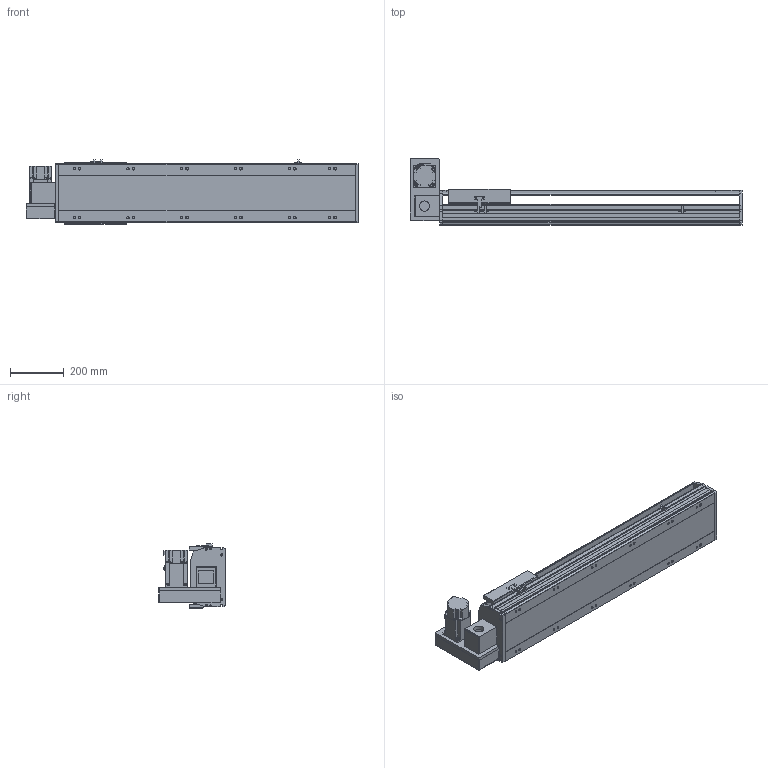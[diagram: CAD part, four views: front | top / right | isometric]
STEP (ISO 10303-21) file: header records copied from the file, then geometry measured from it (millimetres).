
FILE_DESCRIPTION(/* description */ ('STEP AP214'),/* implementation_level */ '2;1');
FILE_NAME(/* name */ 'PBS220-P40-S750-LU-T75-C1-N(0)',/* time_stamp */ '2022-06-13T02:29:20+02:00',/* author */ ('License CC BY-ND 4.0'),/* organization */ ('CADENAS'),/* preprocessor_version */ 'ST-DEVELOPER v18.102',/* originating_system */ 'PARTsolutions',/* authorisation */ ' ');
FILE_SCHEMA (('AUTOMOTIVE_DESIGN {1 0 10303 214 3 1 1}'));
Length unit declared in the file: millimetre
Products named in the file (7): PBS220-P40-S750-LU-T75-C1-N(0); PBS220_sensor; PBS220_plant; PBS220_sliser; T75-p1; PBS220T-LU_motors; PBS220-S750()_body
Assembly tree (8 placements, depth 2):
  PBS220-P40-S750-LU-T75-C1-N(0)
    PBS220_sensor  x3
    PBS220_plant
    PBS220_sliser
    T75-p1
    PBS220T-LU_motors
    PBS220-S750()_body
Bounding box: 1234 x 247 x 238.5 mm (x, y, z)
Volume: 18092271.2 mm3; surface area: 1813232.5 mm2
Topology: 8 solids, 8 shells, 890 faces, 2340 edges, 1522 vertices
Faces by surface type: plane 590, cylinder 264, cone 36
Full cylindrical faces by diameter (mm): 2.013 x4, 4.5 x14, 4.917 x4, 6 x7, 6.647 x8, 8 x10, 8.376 x12, 8.5 x12, 10 x6, 14 x12, 38 x2, 40 x1, 70 x1
Entity records: 25005 total; most frequent: CARTESIAN_POINT 4360, DIRECTION 4347, ORIENTED_EDGE 4034, EDGE_CURVE 2017, AXIS2_PLACEMENT_3D 1503, VERTEX_POINT 1384, LINE 1341, VECTOR 1341
